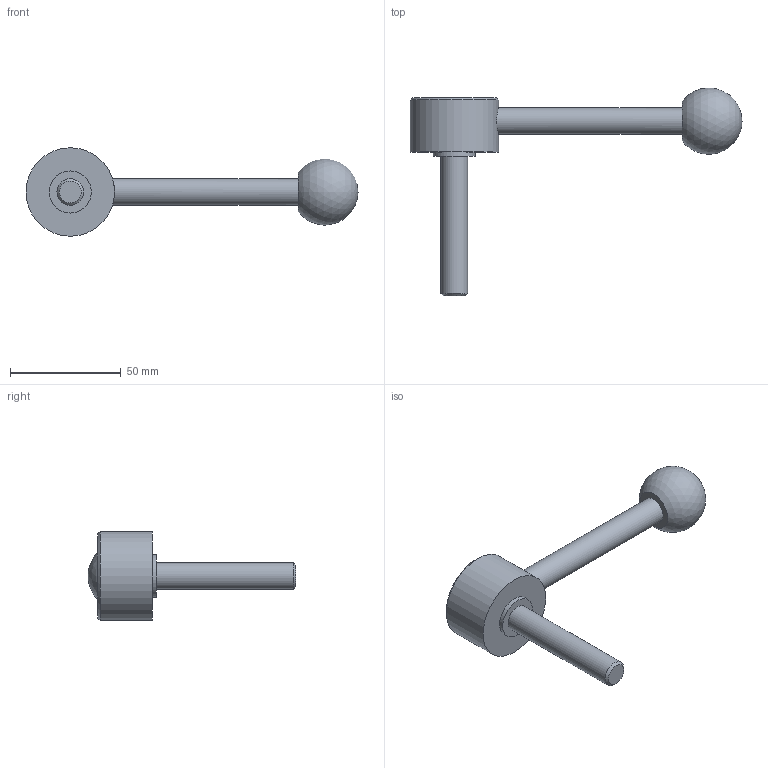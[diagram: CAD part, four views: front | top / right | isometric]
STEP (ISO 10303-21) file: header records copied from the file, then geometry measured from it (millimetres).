
FILE_DESCRIPTION( ( 'STEP AP203' ), '1' );
FILE_NAME( 'C:/Temp/Ganter_Step_05_03_2020/data/2_1/gn_125/gn_125_ms/gn_125_ms_d/Flat Adjustable Lever GN 125-40-M12-63-D.stp', '2020-03-05T11:00:51', ( 'License CC BY-ND 4.0' ), ( 'CADENAS' ), ' ', 'PARTsolutions', ' ' );
FILE_SCHEMA( ( 'CONFIG_CONTROL_DESIGN' ) );
Length unit declared in the file: millimetre
Products named in the file (1): _Flat Adjustable Lever GN 125-40-M12-63-D
Bounding box: 150 x 93.89 x 40 mm (x, y, z)
Volume: 61397.9 mm3; surface area: 13726.2 mm2
Topology: 1 solids, 1 shells, 14 faces, 23 edges, 15 vertices
Faces by surface type: plane 6, cylinder 5, cone 2, sphere 1
Full cylindrical faces by diameter (mm): 12 x2, 19 x1, 28 x1, 40 x1
Entity records: 402 total; most frequent: CARTESIAN_POINT 125, DIRECTION 54, AXIS2_PLACEMENT_3D 27, EDGE_LOOP 26, ORIENTED_EDGE 26, FACE_OUTER_BOUND 19, ADVANCED_FACE 14, VERTEX_POINT 14
